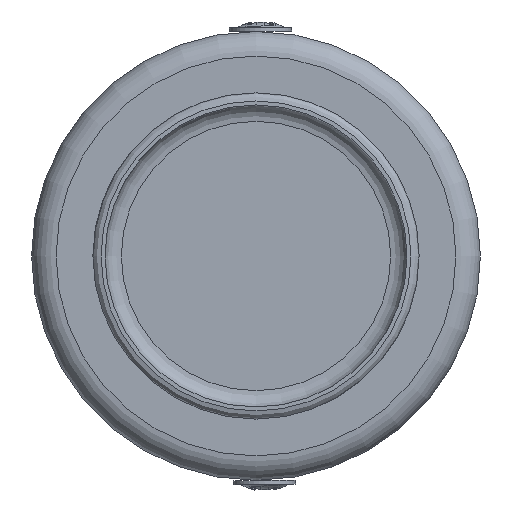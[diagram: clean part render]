
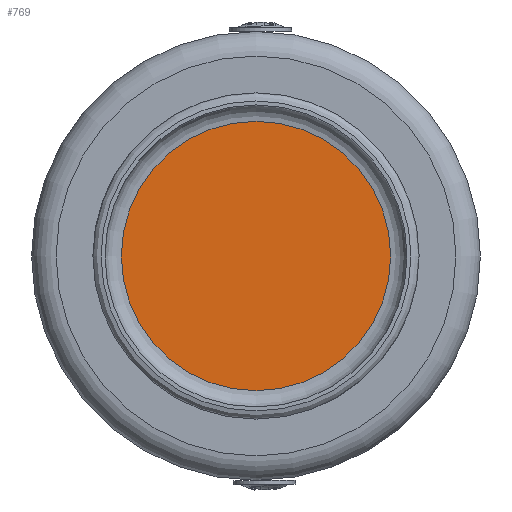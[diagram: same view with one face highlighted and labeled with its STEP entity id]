
A CAD part, front view. The second image highlights one B-rep face of the part: STEP entity #769.
In plain terms, the highlighted planar face has unit normal (0, -1, 0).
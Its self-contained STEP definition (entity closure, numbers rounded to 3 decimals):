
#85=PLANE('',#862);
#128=FACE_OUTER_BOUND('',#182,.T.);
#182=EDGE_LOOP('',(#646));
#324=CIRCLE('',#856,16.5);
#391=VERTEX_POINT('',#1375);
#478=EDGE_CURVE('',#391,#391,#324,.T.);
#646=ORIENTED_EDGE('',*,*,#478,.F.);
#769=ADVANCED_FACE('',(#128),#85,.T.);
#856=AXIS2_PLACEMENT_3D('',#1376,#1023,#1024);
#862=AXIS2_PLACEMENT_3D('',#1386,#1036,#1037);
#1023=DIRECTION('center_axis',(0.,1.,0.));
#1024=DIRECTION('ref_axis',(1.,0.,0.));
#1036=DIRECTION('center_axis',(0.,-1.,0.));
#1037=DIRECTION('ref_axis',(1.,0.,0.));
#1375=CARTESIAN_POINT('',(0.,5.,-16.5));
#1376=CARTESIAN_POINT('Origin',(0.,5.,0.));
#1386=CARTESIAN_POINT('Origin',(0.,5.,0.));
